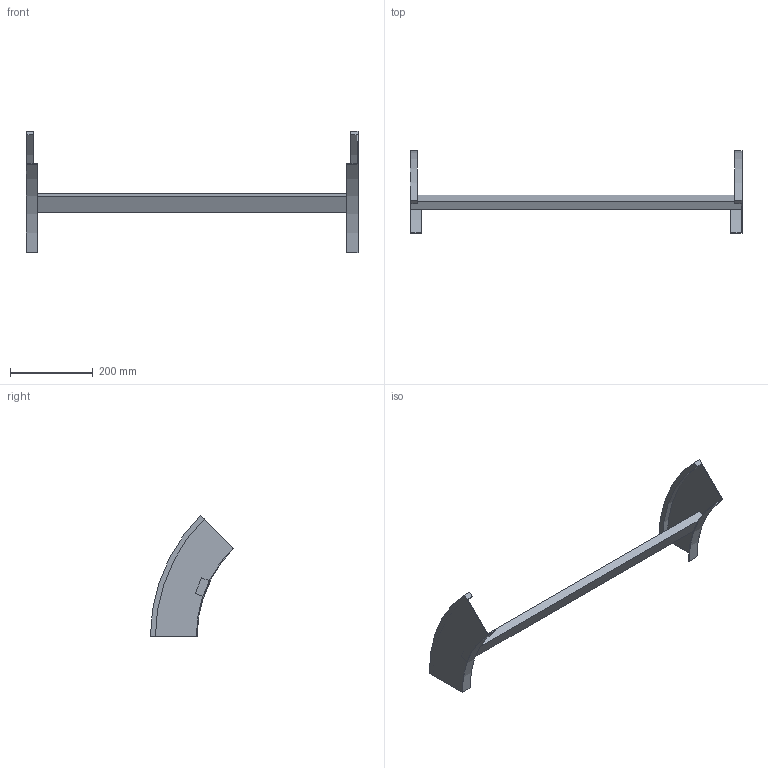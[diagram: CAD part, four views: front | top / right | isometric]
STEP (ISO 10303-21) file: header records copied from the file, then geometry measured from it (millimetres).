
FILE_DESCRIPTION (( 'STEP AP214' ), '1' );
FILE_NAME ('B2_34B3J800.step', '2025-02-21T14:54:04', ( '' ), ( '' ), 'SwSTEP 2.0', 'SolidWorks 2023', '' );
FILE_SCHEMA (( 'AUTOMOTIVE_DESIGN' ));
Length unit declared in the file: millimetre
Products named in the file (3): B2_LONGH.DISCESA_45°_H112.5_R300; B2_34B3J800; TRAVERSINO_800
Assembly tree (3 placements, depth 2):
  B2_34B3J800
    B2_LONGH.DISCESA_45°_H112.5_R300  x2
    TRAVERSINO_800
Bounding box: 800 x 200.37 x 291.68 mm (x, y, z)
Volume: 916907.1 mm3; surface area: 272024.9 mm2
Topology: 3 solids, 3 shells, 26 faces, 60 edges, 40 vertices
Faces by surface type: plane 18, cylinder 8
Entity records: 544 total; most frequent: DIRECTION 88, CARTESIAN_POINT 82, ORIENTED_EDGE 72, EDGE_CURVE 36, AXIS2_PLACEMENT_3D 30, VECTOR 28, LINE 28, VERTEX_POINT 24
